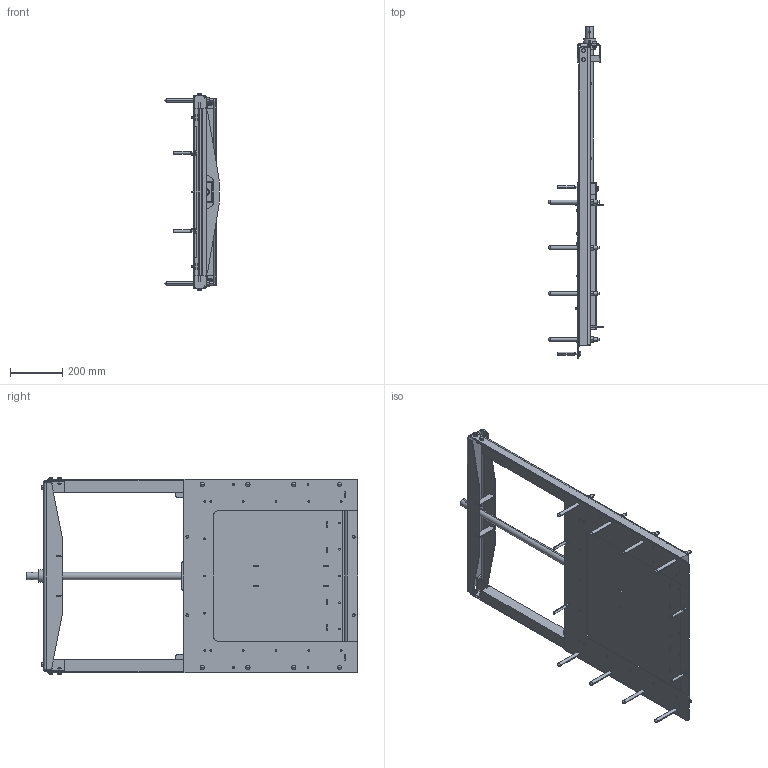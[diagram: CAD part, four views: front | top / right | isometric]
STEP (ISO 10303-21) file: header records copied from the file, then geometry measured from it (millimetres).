
FILE_DESCRIPTION (( 'STEP AP214' ), '1' );
FILE_NAME ('500x500.STEP', '2021-10-27T12:15:40', ( '' ), ( '' ), 'SwSTEP 2.0', 'SolidWorks 2020', '' );
FILE_SCHEMA (( 'AUTOMOTIVE_DESIGN' ));
Length unit declared in the file: millimetre
Products named in the file (1): 500x500
Bounding box: 209 x 1265 x 751.8 mm (x, y, z)
Volume: 9332448 mm3; surface area: 2525416.1 mm2
Topology: 4 solids, 15 shells, 2831 faces, 7214 edges, 4548 vertices
Faces by surface type: cylinder 1173, plane 950, cone 608, torus 60, sphere 24, bspline 16
Entity records: 92643 total; most frequent: CARTESIAN_POINT 25852, ORIENTED_EDGE 14244, DIRECTION 13326, EDGE_CURVE 7122, AXIS2_PLACEMENT_3D 5080, VERTEX_POINT 4532, EDGE_LOOP 3234, VECTOR 3166
